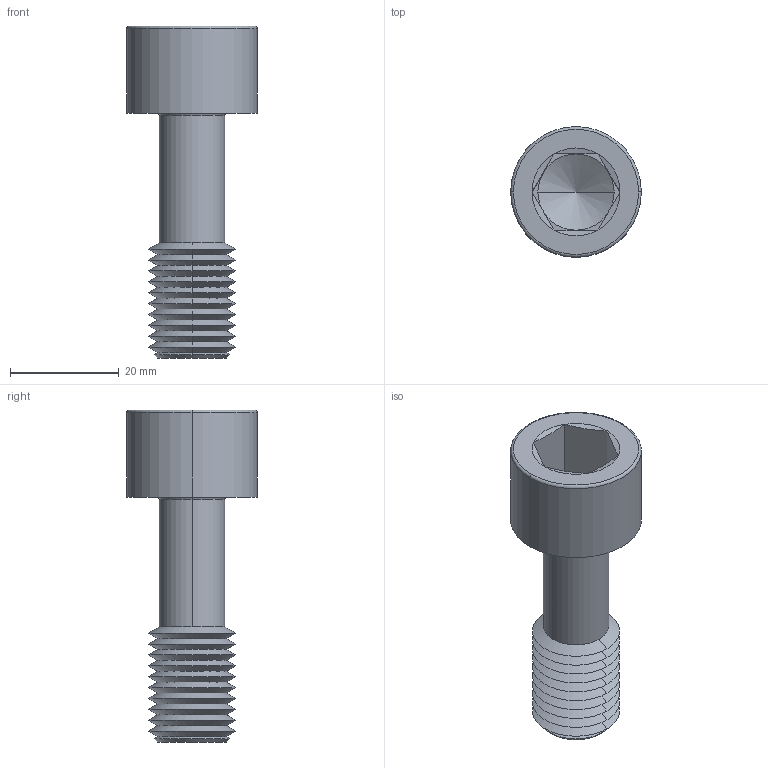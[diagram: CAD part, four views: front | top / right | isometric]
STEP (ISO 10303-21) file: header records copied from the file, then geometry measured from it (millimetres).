
FILE_DESCRIPTION (( 'STEP AP203' ), '1' );
FILE_NAME ('P0154.160-045-BL.step', '2024-06-17T11:38:31', ( '' ), ( '' ), 'SwSTEP 2.0', 'SolidWorks 2019', '' );
FILE_SCHEMA (( 'CONFIG_CONTROL_DESIGN' ));
Length unit declared in the file: millimetre
Products named in the file (1): P0154.160-045-BL
Bounding box: 24 x 24 x 61 mm (x, y, z)
Volume: 10713.6 mm3; surface area: 5563.9 mm2
Topology: 1 solids, 1 shells, 75 faces, 152 edges, 79 vertices
Faces by surface type: cone 52, plane 15, torus 4, cylinder 4
Entity records: 1991 total; most frequent: DIRECTION 372, CARTESIAN_POINT 335, ORIENTED_EDGE 300, AXIS2_PLACEMENT_3D 152, EDGE_CURVE 150, VERTEX_POINT 79, EDGE_LOOP 77, CIRCLE 76
